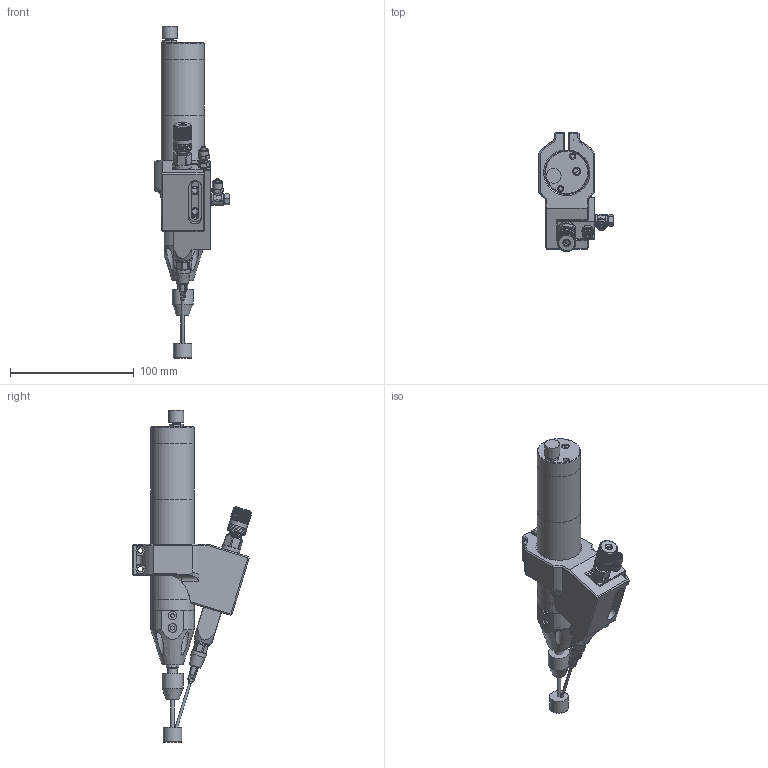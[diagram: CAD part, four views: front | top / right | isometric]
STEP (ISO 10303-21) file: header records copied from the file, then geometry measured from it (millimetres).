
FILE_DESCRIPTION (( 'STEP AP214' ), '1' );
FILE_NAME ('DAVR-1000-DA-400.STEP', '2024-10-11T10:21:55', ( '' ), ( '' ), 'SwSTEP 2.0', 'SolidWorks 2024', '' );
FILE_SCHEMA (( 'AUTOMOTIVE_DESIGN' ));
Length unit declared in the file: millimetre
Products named in the file (1): DAVR-1000-DA-400
Bounding box: 60 x 96.31 x 267.93 mm (x, y, z)
Volume: 268566.7 mm3; surface area: 83676.2 mm2
Topology: 26 solids, 26 shells, 1246 faces, 3140 edges, 2031 vertices
Faces by surface type: plane 643, cylinder 355, cone 154, bspline 72, torus 19, sphere 3
Full cylindrical faces by diameter (mm): 1 x3, 1.5 x1, 1.562 x1, 1.676 x1, 1.841 x2, 1.854 x1, 2 x4, 2.5 x1, 2.87 x1, 3 x10, 3.2 x2, 3.3 x2, 3.5 x4, 3.585 x1, 3.8 x1, 4.17 x1, 4.3 x4, 4.885 x1, 5 x9, 5.15 x2, 5.2 x2, 5.5 x5, 5.8 x1, 6 x8, 6.5 x4, 6.655 x1, 6.9 x2, 7 x10, 7.8 x1, 7.9 x1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
Entity records: 49679 total; most frequent: CARTESIAN_POINT 23084, ORIENTED_EDGE 5566, DIRECTION 4653, EDGE_CURVE 2783, VERTEX_POINT 1901, AXIS2_PLACEMENT_3D 1713, EDGE_LOOP 1588, FACE_OUTER_BOUND 1393
